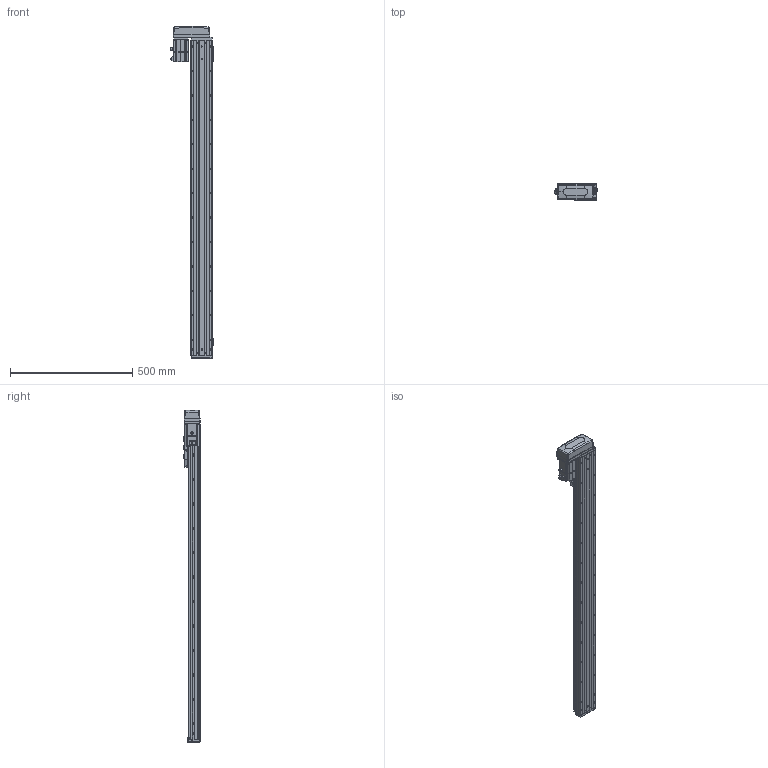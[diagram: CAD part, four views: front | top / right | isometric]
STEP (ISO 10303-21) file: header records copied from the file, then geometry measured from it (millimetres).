
FILE_DESCRIPTION (( 'STEP AP203' ), '1' );
FILE_NAME ('CTHA86-1100-BR-M20-C4L.step', '2022-04-26T00:58:50', ( '微软用户' ), ( '微软中国' ), 'SwSTEP 2.0', 'SolidWorks 2020', '' );
FILE_SCHEMA (( 'CONFIG_CONTROL_DESIGN' ));
Length unit declared in the file: millimetre
Products named in the file (21): KTHA86-005; GBT70.1 M5℅16; CTHA86-030; GB¨uT 70.2-M3¡Á5_M3¡Á6; GBT 70.1-M3×16; GBT 70.3-M3℅6; EE_SX911P_R; GBT 70.1-M3℅6; CTHA86-015-1_CTHA86-015-2; CTHA60-017; CTHA60-016; CTHA86-033; CTHA60-021; _X2_4E0983F1_X0_200W_1; CTHA86-1100-BR-M20-C4L; KTHA86-001_1290; GBT77-2000 M3×3; CTHA86-002; KTHA86-004; GBT 70.1-M3×20; CTHA86-031
Assembly tree (66 placements, depth 2):
  CTHA86-1100-BR-M20-C4L
    KTHA86-001_1290
    KTHA86-004
    KTHA86-005
    GB¨uT 70.2-M3¡Á5_M3¡Á6  x10
    EE_SX911P_R  x3
    CTHA60-017  x3
    CTHA60-021  x2
    GBT77-2000 M3×3  x6
    GBT 70.1-M3×20
    GBT70.1 M5℅16  x14
    GBT 70.1-M3×16  x5
    GBT 70.1-M3℅6  x6
    CTHA60-016  x2
    _X2_4E0983F1_X0_200W_1
    CTHA86-002
    CTHA86-031
    CTHA86-030  x2
    GBT 70.3-M3℅6  x4
    CTHA86-015-1_CTHA86-015-2
    CTHA86-033
Bounding box: 178.52 x 68 x 1359 mm (x, y, z)
Volume: 4954948.5 mm3; surface area: 838592.5 mm2
Topology: 68 solids, 68 shells, 2886 faces, 6932 edges, 4276 vertices
Faces by surface type: plane 1523, cylinder 753, cone 379, torus 132, bspline 75, sphere 24
Entity records: 52311 total; most frequent: CARTESIAN_POINT 10067, DIRECTION 8179, ORIENTED_EDGE 7964, EDGE_CURVE 3982, AXIS2_PLACEMENT_3D 2772, VECTOR 2635, LINE 2635, VERTEX_POINT 2508
